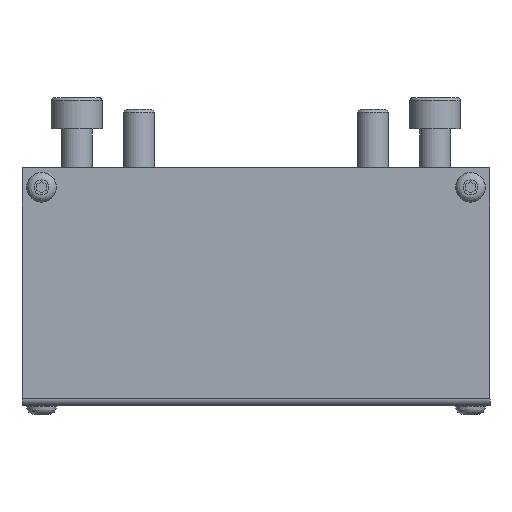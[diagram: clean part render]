
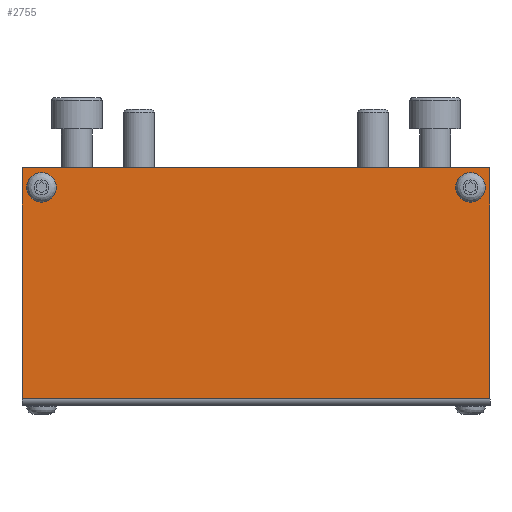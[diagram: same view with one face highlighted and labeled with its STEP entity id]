
A CAD part, left-side view. The second image highlights one B-rep face of the part: STEP entity #2755.
In plain terms, the highlighted planar face has unit normal (-1, 0, 0).
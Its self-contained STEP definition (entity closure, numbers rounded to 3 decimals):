
#56=FACE_BOUND('',#538,.T.);
#57=FACE_BOUND('',#539,.T.);
#184=PLANE('',#3031);
#348=FACE_OUTER_BOUND('',#537,.T.);
#537=EDGE_LOOP('',(#2536,#2537,#2538,#2539));
#538=EDGE_LOOP('',(#2540));
#539=EDGE_LOOP('',(#2541));
#555=LINE('',#3837,#828);
#560=LINE('',#3856,#833);
#822=LINE('',#4810,#1095);
#823=LINE('',#4811,#1096);
#828=VECTOR('',#3049,10.);
#833=VECTOR('',#3068,10.);
#1095=VECTOR('',#3814,10.);
#1096=VECTOR('',#3815,10.);
#1130=CIRCLE('',#2860,3.8);
#1141=CIRCLE('',#2889,3.8);
#1203=VERTEX_POINT('',#3834);
#1204=VERTEX_POINT('',#3836);
#1211=VERTEX_POINT('',#3854);
#1290=VERTEX_POINT('',#4262);
#1323=VERTEX_POINT('',#4416);
#1445=VERTEX_POINT('',#4809);
#1452=EDGE_CURVE('',#1204,#1203,#555,.T.);
#1462=EDGE_CURVE('',#1211,#1203,#560,.T.);
#1583=EDGE_CURVE('',#1290,#1290,#1130,.T.);
#1632=EDGE_CURVE('',#1323,#1323,#1141,.T.);
#1816=EDGE_CURVE('',#1445,#1211,#822,.T.);
#1817=EDGE_CURVE('',#1204,#1445,#823,.T.);
#2536=ORIENTED_EDGE('',*,*,#1462,.F.);
#2537=ORIENTED_EDGE('',*,*,#1816,.F.);
#2538=ORIENTED_EDGE('',*,*,#1817,.F.);
#2539=ORIENTED_EDGE('',*,*,#1452,.T.);
#2540=ORIENTED_EDGE('',*,*,#1583,.T.);
#2541=ORIENTED_EDGE('',*,*,#1632,.T.);
#2755=ADVANCED_FACE('',(#348,#56,#57),#184,.T.);
#2860=AXIS2_PLACEMENT_3D('',#4264,#3305,#3306);
#2889=AXIS2_PLACEMENT_3D('',#4418,#3401,#3402);
#3031=AXIS2_PLACEMENT_3D('',#4808,#3812,#3813);
#3049=DIRECTION('',(0.,0.,-1.));
#3068=DIRECTION('',(0.,1.,0.));
#3305=DIRECTION('center_axis',(1.,0.,0.));
#3306=DIRECTION('ref_axis',(0.,0.,-1.));
#3401=DIRECTION('center_axis',(1.,0.,0.));
#3402=DIRECTION('ref_axis',(0.,0.,-1.));
#3812=DIRECTION('center_axis',(-1.,0.,0.));
#3813=DIRECTION('ref_axis',(0.,1.,0.));
#3814=DIRECTION('',(0.,0.,-1.));
#3815=DIRECTION('',(0.,-1.,0.));
#3834=CARTESIAN_POINT('',(0.,120.,-59.2));
#3836=CARTESIAN_POINT('',(0.,120.,0.));
#3837=CARTESIAN_POINT('',(0.,120.,0.));
#3854=CARTESIAN_POINT('',(0.,0.,-59.2));
#3856=CARTESIAN_POINT('',(0.,30.,-59.2));
#4262=CARTESIAN_POINT('',(0.,5.,-1.2));
#4264=CARTESIAN_POINT('Origin',(0.,5.,-5.));
#4416=CARTESIAN_POINT('',(0.,115.,-1.2));
#4418=CARTESIAN_POINT('Origin',(0.,115.,-5.));
#4808=CARTESIAN_POINT('Origin',(0.,0.,0.));
#4809=CARTESIAN_POINT('',(0.,0.,0.));
#4810=CARTESIAN_POINT('',(0.,0.,0.));
#4811=CARTESIAN_POINT('',(0.,120.,0.));
